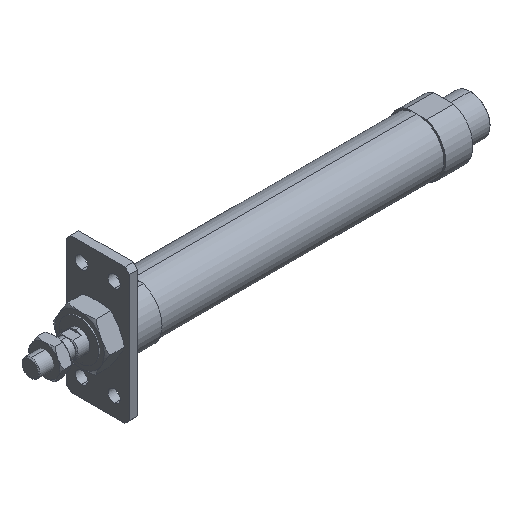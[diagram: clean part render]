
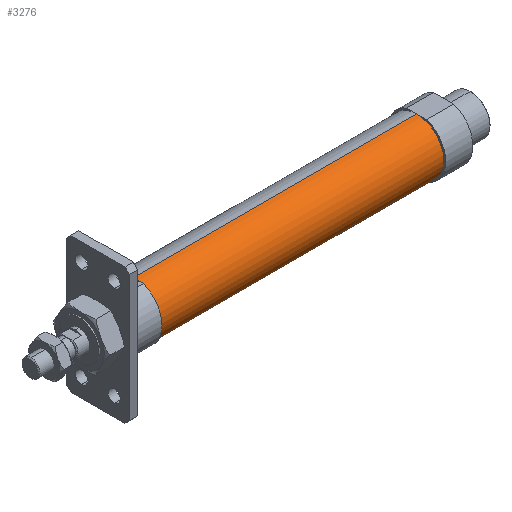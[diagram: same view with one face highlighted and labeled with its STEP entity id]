
A CAD part, isometric view. The second image highlights one B-rep face of the part: STEP entity #3276.
In plain terms, the highlighted cylindrical face has radius 15 mm (diameter 30 mm), a partial arc.
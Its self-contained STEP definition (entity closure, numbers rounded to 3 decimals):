
#12 = VECTOR ( 'NONE', #1503, 1000. ) ;
#34 = CARTESIAN_POINT ( 'NONE',  ( -6.469, 0., 0. ) ) ;
#69 = EDGE_CURVE ( 'NONE', #3405, #3789, #3593, .T. ) ;
#112 = VERTEX_POINT ( 'NONE', #2702 ) ;
#212 = AXIS2_PLACEMENT_3D ( 'NONE', #3804, #751, #2378 ) ;
#430 = DIRECTION ( 'NONE',  ( -1., 0., 0. ) ) ;
#576 = AXIS2_PLACEMENT_3D ( 'NONE', #34, #3545, #3981 ) ;
#605 = CARTESIAN_POINT ( 'NONE',  ( -6.469, 0., -15. ) ) ;
#751 = DIRECTION ( 'NONE',  ( -1., 0., 0. ) ) ;
#1003 = EDGE_CURVE ( 'NONE', #3439, #3405, #1276, .T. ) ;
#1202 = ORIENTED_EDGE ( 'NONE', *, *, #2663, .F. ) ;
#1274 = ORIENTED_EDGE ( 'NONE', *, *, #3203, .F. ) ;
#1276 = CIRCLE ( 'NONE', #212, 15. ) ;
#1338 = CARTESIAN_POINT ( 'NONE',  ( 214., 0., -15. ) ) ;
#1413 = CARTESIAN_POINT ( 'NONE',  ( 214., 0., 15. ) ) ;
#1503 = DIRECTION ( 'NONE',  ( -1., 0., 0. ) ) ;
#1505 = VECTOR ( 'NONE', #4110, 1000. ) ;
#1677 = CYLINDRICAL_SURFACE ( 'NONE', #576, 15. ) ;
#1707 = LINE ( 'NONE', #605, #12 ) ;
#1740 = CIRCLE ( 'NONE', #2418, 15. ) ;
#1759 = FACE_OUTER_BOUND ( 'NONE', #4142, .T. ) ;
#1881 = CARTESIAN_POINT ( 'NONE',  ( -6.469, 0., 15. ) ) ;
#2141 = CARTESIAN_POINT ( 'NONE',  ( 57., 0., 0. ) ) ;
#2378 = DIRECTION ( 'NONE',  ( 0., 0., 1. ) ) ;
#2418 = AXIS2_PLACEMENT_3D ( 'NONE', #2141, #430, #3475 ) ;
#2663 = EDGE_CURVE ( 'NONE', #112, #3789, #1740, .T. ) ;
#2702 = CARTESIAN_POINT ( 'NONE',  ( 57., 0., -15. ) ) ;
#2720 = ORIENTED_EDGE ( 'NONE', *, *, #69, .T. ) ;
#3203 = EDGE_CURVE ( 'NONE', #3439, #112, #1707, .T. ) ;
#3276 = ADVANCED_FACE ( 'NONE', ( #1759 ), #1677, .T. ) ;
#3405 = VERTEX_POINT ( 'NONE', #1413 ) ;
#3439 = VERTEX_POINT ( 'NONE', #1338 ) ;
#3475 = DIRECTION ( 'NONE',  ( 0., 0., 1. ) ) ;
#3545 = DIRECTION ( 'NONE',  ( -1., 0., 0. ) ) ;
#3593 = LINE ( 'NONE', #1881, #1505 ) ;
#3748 = CARTESIAN_POINT ( 'NONE',  ( 57., 0., 15. ) ) ;
#3789 = VERTEX_POINT ( 'NONE', #3748 ) ;
#3804 = CARTESIAN_POINT ( 'NONE',  ( 214., 0., 0. ) ) ;
#3938 = ORIENTED_EDGE ( 'NONE', *, *, #1003, .T. ) ;
#3981 = DIRECTION ( 'NONE',  ( 0., 0., 1. ) ) ;
#4110 = DIRECTION ( 'NONE',  ( -1., 0., 0. ) ) ;
#4142 = EDGE_LOOP ( 'NONE', ( #1274, #3938, #2720, #1202 ) ) ;
